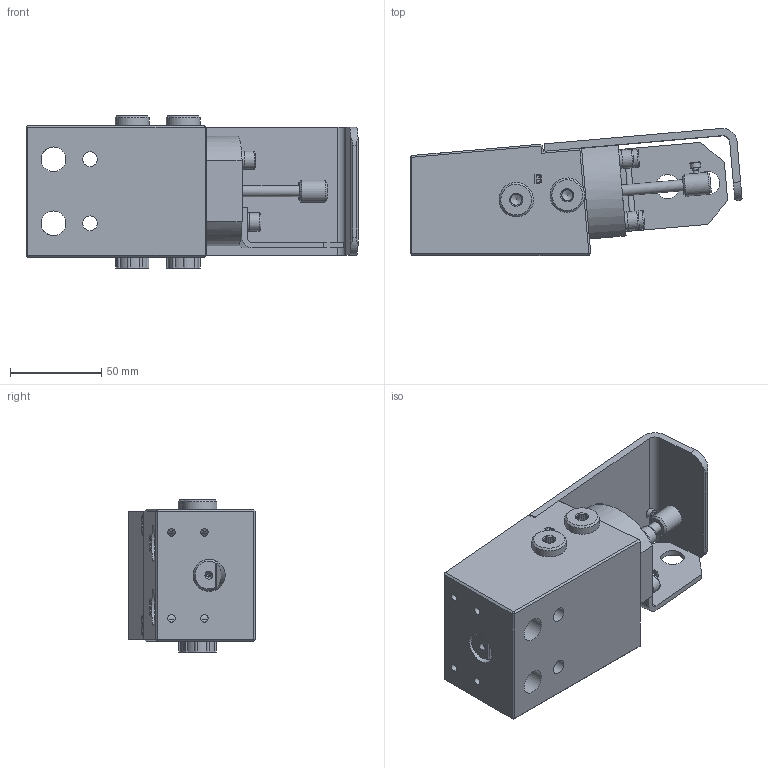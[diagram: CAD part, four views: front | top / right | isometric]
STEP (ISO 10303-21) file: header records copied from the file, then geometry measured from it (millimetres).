
FILE_DESCRIPTION((''),'2;1');
FILE_NAME('\\easAd\Users\breep\Desktop\MOD150-200-RH-150-P-350(M12).stp','2012-07-11T09:20:09',('breep'),(''),'Autodesk Inventor 2011','Autodesk Inventor 2011','');
FILE_SCHEMA(('AUTOMOTIVE_DESIGN { 1 0 10303 214 1 1 1 1 }'));
Length unit declared in the file: millimetre
Products named in the file (1): Part5
Bounding box: 181.47 x 69.39 x 83.1 mm (x, y, z)
Volume: 462265.1 mm3; surface area: 98914 mm2
Topology: 15 solids, 15 shells, 544 faces, 1353 edges, 865 vertices
Faces by surface type: plane 249, cylinder 154, cone 77, bspline 32, torus 32
Full cylindrical faces by diameter (mm): 2 x1, 3 x2, 4 x6, 4.134 x6, 4.3 x2, 4.917 x5, 5 x2, 5.5 x1, 6 x10, 6.02 x1, 6.1 x1, 6.2 x3, 7 x6, 8.1 x2, 8.8 x1, 9 x4, 10 x6, 10.03 x1, 10.8 x2, 11.2 x2, 11.445 x6, 11.6 x2, 12 x1, 13 x2, 13.157 x2, 13.5 x2, 16.4 x3, 16.8 x2, 17.4 x1, 17.47 x1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
Entity records: 16221 total; most frequent: CARTESIAN_POINT 4305, DIRECTION 2310, ORIENTED_EDGE 2072, EDGE_CURVE 1036, AXIS2_PLACEMENT_3D 937, EDGE_LOOP 819, VERTEX_POINT 749, FACE_OUTER_BOUND 544
